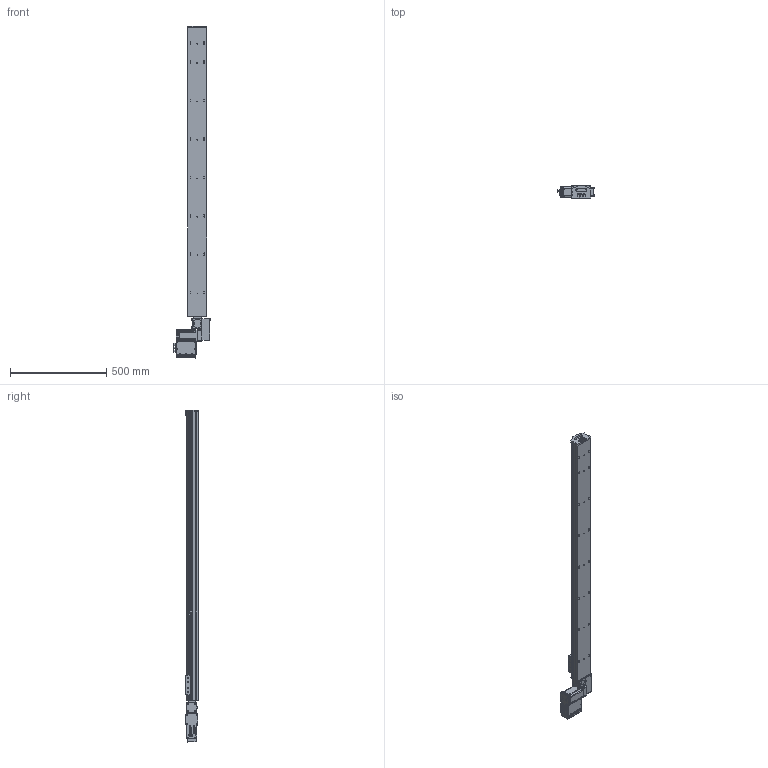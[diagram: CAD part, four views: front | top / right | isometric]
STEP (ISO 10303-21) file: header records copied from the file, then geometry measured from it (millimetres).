
FILE_DESCRIPTION (( 'STEP AP203' ), '1' );
FILE_NAME ('S10 TBN LH S1500.STEP', '2012-06-18T09:43:30', ( 'Conseil Régional Haute-Normandie' ), ( 'Conseil Régional Haute-Normandie' ), 'SwSTEP 2.0', 'SolidWorks 2010', '' );
FILE_SCHEMA (( 'CONFIG_CONTROL_DESIGN' ));
Products named in the file (29): BU41 Carte Alimentation P05_3; S10 TBN LH S1500; Colonnette_3; cache t皻e axe_Default; cache t皻e_Default; vis M5 L12_Default; renvoi LH_Default; Cvis M5 L30_Default; Assem1_7; T_X2_00F4_X0_le contre le moteur_5; BU45 Carte d''axe A11_5; Moteur 60BLDC90A_3; Couvercle_3; T_X2_00F4_X0_le fond_3; Connecteur rond D10 3cts_5; Connecteur rond D12 4cts_5; Sub D 9cts 90_X2_00B_X0__3; Radiateur profil_X2_00E9_X0_ 100x25_3; Colonnette ronde_3; T_X2_00F4_X0_le Arri_X2_00E8_X0_re_5; T_X2_00F4_X0_le lat_X2_00E9_X0_rale_5; Vis TF 3 torkx_1_1; embout; palette tbn; plaque de bout s10_Default; Plaque racord_Default; Vis M5 L16-2_Default_1; vis M5 L5_Default; axe 1500
Assembly tree (62 placements, depth 3):
  S10 TBN LH S1500
    Plaque racord_Default
    vis M5 L12_Default  x4
    Cvis M5 L30_Default  x2
    palette tbn
    renvoi LH_Default
    cache t皻e_Default  x2
    cache t皻e axe_Default
    axe 1500
    Vis M5 L16-2_Default_1  x4
    vis M5 L5_Default  x4
    plaque de bout s10_Default
    Assem1_7
      BU41 Carte Alimentation P05_3
      Vis TF 3 torkx_1_1  x21
      T_X2_00F4_X0_le fond_3
      T_X2_00F4_X0_le contre le moteur_5
      Couvercle_3
      Colonnette ronde_3
      Moteur 60BLDC90A_3
      Colonnette_3  x2
      Connecteur rond D10 3cts_5  x2
      T_X2_00F4_X0_le lat_X2_00E9_X0_rale_5  x2
      BU45 Carte d''axe A11_5
      Connecteur rond D12 4cts_5
      T_X2_00F4_X0_le Arri_X2_00E8_X0_re_5
      Sub D 9cts 90_X2_00B_X0__3
      Radiateur profil_X2_00E9_X0_ 100x25_3
    embout
Bounding box: 189.78 x 66.75 x 1728.51 mm (x, y, z)
Volume: 8650438.6 mm3; surface area: 1036302 mm2
Topology: 61 solids, 61 shells, 2321 faces, 5754 edges, 3707 vertices
Faces by surface type: plane 1102, cylinder 994, cone 182, bspline 40, torus 3
Entity records: 48307 total; most frequent: CARTESIAN_POINT 8712, DIRECTION 7805, ORIENTED_EDGE 7088, EDGE_CURVE 3544, AXIS2_PLACEMENT_3D 2899, VERTEX_POINT 2311, VECTOR 2007, LINE 2007
